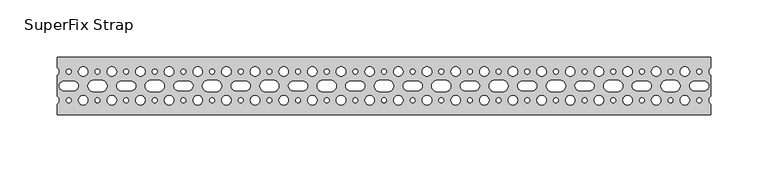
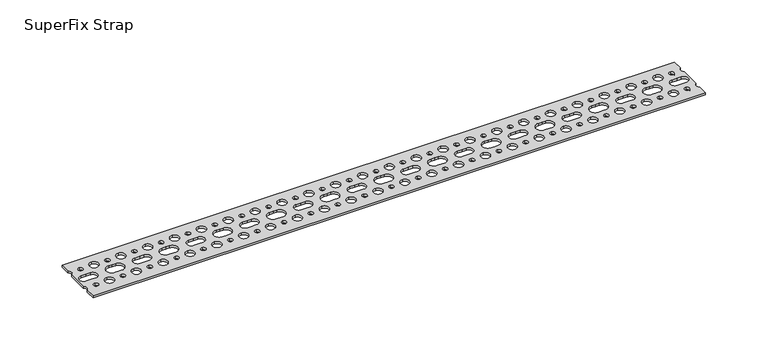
"""IFC4 building model written with IfcOpenShell, lengths in millimetres: valve geometry, Superfix Strap : SuperFix Strap."""

from ifc_helpers import new_model, si_unit, point, frame_2d, origin, origin_with_axes, place, context, project, spatial, polyline, circle_curve, trimmed, segment, composite_curve, outline, extrude, source, transform, mapped, element, save


def superfix_strap_2dfa1f6c(model_context):
    return source(origin(), model_context, "Body", "SweptSolid", [
        extrude(outline(composite_curve([segment(polyline([(285.0438563, -25.0), (-285.0438563, -25.0), (-285.0438563, -15.8451245)]), True, "CONTINUOUS"), segment(trimmed(circle_curve(frame_2d((-287.5, -12.5)), 4.15), [point((-285.0438563, -15.8451245))], [point((-285.0438563, -9.1548755))], True, "CARTESIAN"), True, "CONTINUOUS"), segment(polyline([(-285.0438563, -9.1548755), (-285.0438563, 9.1548755)]), True, "CONTINUOUS"), segment(trimmed(circle_curve(frame_2d((-287.5, 12.5)), 4.15), [point((-285.0438563, 9.1548755))], [point((-285.0438563, 15.8451245))], True, "CARTESIAN"), True, "CONTINUOUS"), segment(polyline([(-285.0438563, 15.8451245), (-285.0438563, 25.0), (285.0438563, 25.0), (285.0438563, 15.8451245)]), True, "CONTINUOUS"), segment(trimmed(circle_curve(frame_2d((287.5, 12.5)), 4.15), [point((285.0438563, 15.8451245))], [point((285.0438563, 9.1548755))], True, "CARTESIAN"), True, "CONTINUOUS"), segment(polyline([(285.0438563, 9.1548755), (285.0438563, -9.1548755)]), True, "CONTINUOUS"), segment(trimmed(circle_curve(frame_2d((287.5, -12.5)), 4.15), [point((285.0438563, -9.1548755))], [point((285.0438563, -15.8451245))], True, "CARTESIAN"), True, "CONTINUOUS"), segment(polyline([(285.0438563, -15.8451245), (285.0438563, -25.0)]), True, "CONTINUOUS")], self_intersect=False), holes=[composite_curve([segment(polyline([(25.0, 4.15), (20.75, 4.15)]), True, "CONTINUOUS"), segment(trimmed(circle_curve(frame_2d((20.75, 0.0)), 4.15), [point((20.75, 4.15))], [point((20.75, -4.15))], True, "CARTESIAN"), True, "CONTINUOUS"), segment(polyline([(20.75, -4.15), (25.0, -4.15), (29.25, -4.15)]), True, "CONTINUOUS"), segment(trimmed(circle_curve(frame_2d((29.25, 0.0)), 4.15), [point((29.25, -4.15))], [point((29.25, 4.15))], True, "CARTESIAN"), True, "CONTINUOUS"), segment(polyline([(29.25, 4.15), (25.0, 4.15)]), True, "CONTINUOUS")], self_intersect=False), composite_curve([segment(polyline([(0.0, 5.15), (-3.25, 5.15)]), True, "CONTINUOUS"), segment(trimmed(circle_curve(frame_2d((-3.25, 0.0)), 5.15), [point((-3.25, 5.15))], [point((-3.25, -5.15))], True, "CARTESIAN"), True, "CONTINUOUS"), segment(polyline([(-3.25, -5.15), (0.0, -5.15), (3.25, -5.15)]), True, "CONTINUOUS"), segment(trimmed(circle_curve(frame_2d((3.25, 0.0)), 5.15), [point((3.25, -5.15))], [point((3.25, 5.15))], True, "CARTESIAN"), True, "CONTINUOUS"), segment(polyline([(3.25, 5.15), (0.0, 5.15)]), True, "CONTINUOUS")], self_intersect=False), composite_curve([segment(trimmed(circle_curve(frame_2d((0.0, 12.5)), 2.15), [point((0.0, 14.65))], [point((0.0, 10.35))], True, "CARTESIAN"), True, "CONTINUOUS"), segment(trimmed(circle_curve(frame_2d((0.0, 12.5)), 2.15), [point((0.0, 10.35))], [point((0.0, 14.65))], True, "CARTESIAN"), True, "CONTINUOUS")], self_intersect=False), composite_curve([segment(trimmed(circle_curve(frame_2d((25.0, 12.5)), 2.15), [point((25.0, 14.65))], [point((25.0, 10.35))], True, "CARTESIAN"), True, "CONTINUOUS"), segment(trimmed(circle_curve(frame_2d((25.0, 12.5)), 2.15), [point((25.0, 10.35))], [point((25.0, 14.65))], True, "CARTESIAN"), True, "CONTINUOUS")], self_intersect=False), composite_curve([segment(trimmed(circle_curve(frame_2d((25.0, -12.5)), 2.15), [point((25.0, -10.35))], [point((25.0, -14.65))], True, "CARTESIAN"), True, "CONTINUOUS"), segment(trimmed(circle_curve(frame_2d((25.0, -12.5)), 2.15), [point((25.0, -14.65))], [point((25.0, -10.35))], True, "CARTESIAN"), True, "CONTINUOUS")], self_intersect=False), composite_curve([segment(trimmed(circle_curve(frame_2d((0.0, -12.5)), 2.15), [point((0.0, -10.35))], [point((0.0, -14.65))], True, "CARTESIAN"), True, "CONTINUOUS"), segment(trimmed(circle_curve(frame_2d((0.0, -12.5)), 2.15), [point((0.0, -14.65))], [point((0.0, -10.35))], True, "CARTESIAN"), True, "CONTINUOUS")], self_intersect=False), composite_curve([segment(trimmed(circle_curve(frame_2d((12.5, 12.5)), 4.15), [point((12.5, 16.65))], [point((12.5, 8.35))], True, "CARTESIAN"), True, "CONTINUOUS"), segment(trimmed(circle_curve(frame_2d((12.5, 12.5)), 4.15), [point((12.5, 8.35))], [point((12.5, 16.65))], True, "CARTESIAN"), True, "CONTINUOUS")], self_intersect=False), composite_curve([segment(trimmed(circle_curve(frame_2d((12.5, -12.5)), 4.15), [point((12.5, -8.35))], [point((12.5, -16.65))], True, "CARTESIAN"), True, "CONTINUOUS"), segment(trimmed(circle_curve(frame_2d((12.5, -12.5)), 4.15), [point((12.5, -16.65))], [point((12.5, -8.35))], True, "CARTESIAN"), True, "CONTINUOUS")], self_intersect=False), composite_curve([segment(trimmed(circle_curve(frame_2d((37.5, 12.5)), 4.15), [point((37.5, 16.65))], [point((37.5, 8.35))], True, "CARTESIAN"), True, "CONTINUOUS"), segment(trimmed(circle_curve(frame_2d((37.5, 12.5)), 4.15), [point((37.5, 8.35))], [point((37.5, 16.65))], True, "CARTESIAN"), True, "CONTINUOUS")], self_intersect=False), composite_curve([segment(trimmed(circle_curve(frame_2d((37.5, -12.5)), 4.15), [point((37.5, -8.35))], [point((37.5, -16.65))], True, "CARTESIAN"), True, "CONTINUOUS"), segment(trimmed(circle_curve(frame_2d((37.5, -12.5)), 4.15), [point((37.5, -16.65))], [point((37.5, -8.35))], True, "CARTESIAN"), True, "CONTINUOUS")], self_intersect=False), composite_curve([segment(trimmed(circle_curve(frame_2d((-20.75, 0.0)), 4.15), [point((-20.75, -4.15))], [point((-20.75, 4.15))], True, "CARTESIAN"), True, "CONTINUOUS"), segment(polyline([(-20.75, 4.15), (-25.0, 4.15), (-29.25, 4.15)]), True, "CONTINUOUS"), segment(trimmed(circle_curve(frame_2d((-29.25, 0.0)), 4.15), [point((-29.25, 4.15))], [point((-29.25, -4.15))], True, "CARTESIAN"), True, "CONTINUOUS"), segment(polyline([(-29.25, -4.15), (-25.0, -4.15), (-20.75, -4.15)]), True, "CONTINUOUS")], self_intersect=False), composite_curve([segment(trimmed(circle_curve(frame_2d((-25.0, 12.5)), 2.15), [point((-25.0, 14.65))], [point((-25.0, 10.35))], True, "CARTESIAN"), True, "CONTINUOUS"), segment(trimmed(circle_curve(frame_2d((-25.0, 12.5)), 2.15), [point((-25.0, 10.35))], [point((-25.0, 14.65))], True, "CARTESIAN"), True, "CONTINUOUS")], self_intersect=False), composite_curve([segment(trimmed(circle_curve(frame_2d((-25.0, -12.5)), 2.15), [point((-25.0, -10.35))], [point((-25.0, -14.65))], True, "CARTESIAN"), True, "CONTINUOUS"), segment(trimmed(circle_curve(frame_2d((-25.0, -12.5)), 2.15), [point((-25.0, -14.65))], [point((-25.0, -10.35))], True, "CARTESIAN"), True, "CONTINUOUS")], self_intersect=False), composite_curve([segment(trimmed(circle_curve(frame_2d((-12.5, 12.5)), 4.15), [point((-12.5, 16.65))], [point((-12.5, 8.35))], True, "CARTESIAN"), True, "CONTINUOUS"), segment(trimmed(circle_curve(frame_2d((-12.5, 12.5)), 4.15), [point((-12.5, 8.35))], [point((-12.5, 16.65))], True, "CARTESIAN"), True, "CONTINUOUS")], self_intersect=False), composite_curve([segment(trimmed(circle_curve(frame_2d((-12.5, -12.5)), 4.15), [point((-12.5, -8.35))], [point((-12.5, -16.65))], True, "CARTESIAN"), True, "CONTINUOUS"), segment(trimmed(circle_curve(frame_2d((-12.5, -12.5)), 4.15), [point((-12.5, -16.65))], [point((-12.5, -8.35))], True, "CARTESIAN"), True, "CONTINUOUS")], self_intersect=False), composite_curve([segment(polyline([(46.75, -5.15), (50.0, -5.15), (53.25, -5.15)]), True, "CONTINUOUS"), segment(trimmed(circle_curve(frame_2d((53.25, 0.0)), 5.15), [point((53.25, -5.15))], [point((53.25, 5.15))], True, "CARTESIAN"), True, "CONTINUOUS"), segment(polyline([(53.25, 5.15), (50.0, 5.15), (46.75, 5.15)]), True, "CONTINUOUS"), segment(trimmed(circle_curve(frame_2d((46.75, 0.0)), 5.15), [point((46.75, 5.15))], [point((46.75, -5.15))], True, "CARTESIAN"), True, "CONTINUOUS")], self_intersect=False), composite_curve([segment(trimmed(circle_curve(frame_2d((50.0, 12.5)), 2.15), [point((50.0, 14.65))], [point((50.0, 10.35))], True, "CARTESIAN"), True, "CONTINUOUS"), segment(trimmed(circle_curve(frame_2d((50.0, 12.5)), 2.15), [point((50.0, 10.35))], [point((50.0, 14.65))], True, "CARTESIAN"), True, "CONTINUOUS")], self_intersect=False), composite_curve([segment(trimmed(circle_curve(frame_2d((50.0, -12.5)), 2.15), [point((50.0, -10.35))], [point((50.0, -14.65))], True, "CARTESIAN"), True, "CONTINUOUS"), segment(trimmed(circle_curve(frame_2d((50.0, -12.5)), 2.15), [point((50.0, -14.65))], [point((50.0, -10.35))], True, "CARTESIAN"), True, "CONTINUOUS")], self_intersect=False), composite_curve([segment(trimmed(circle_curve(frame_2d((-37.5, 12.5)), 4.15), [point((-37.5, 16.65))], [point((-37.5, 8.35))], True, "CARTESIAN"), True, "CONTINUOUS"), segment(trimmed(circle_curve(frame_2d((-37.5, 12.5)), 4.15), [point((-37.5, 8.35))], [point((-37.5, 16.65))], True, "CARTESIAN"), True, "CONTINUOUS")], self_intersect=False), composite_curve([segment(trimmed(circle_curve(frame_2d((-37.5, -12.5)), 4.15), [point((-37.5, -8.35))], [point((-37.5, -16.65))], True, "CARTESIAN"), True, "CONTINUOUS"), segment(trimmed(circle_curve(frame_2d((-37.5, -12.5)), 4.15), [point((-37.5, -16.65))], [point((-37.5, -8.35))], True, "CARTESIAN"), True, "CONTINUOUS")], self_intersect=False), composite_curve([segment(polyline([(125.0, 4.15), (120.75, 4.15)]), True, "CONTINUOUS"), segment(trimmed(circle_curve(frame_2d((120.75, 0.0)), 4.15), [point((120.75, 4.15))], [point((120.75, -4.15))], True, "CARTESIAN"), True, "CONTINUOUS"), segment(polyline([(120.75, -4.15), (125.0, -4.15), (129.25, -4.15)]), True, "CONTINUOUS"), segment(trimmed(circle_curve(frame_2d((129.25, 0.0)), 4.15), [point((129.25, -4.15))], [point((129.25, 4.15))], True, "CARTESIAN"), True, "CONTINUOUS"), segment(polyline([(129.25, 4.15), (125.0, 4.15)]), True, "CONTINUOUS")], self_intersect=False), composite_curve([segment(polyline([(100.0, 5.15), (96.75, 5.15)]), True, "CONTINUOUS"), segment(trimmed(circle_curve(frame_2d((96.75, 0.0)), 5.15), [point((96.75, 5.15))], [point((96.75, -5.15))], True, "CARTESIAN"), True, "CONTINUOUS"), segment(polyline([(96.75, -5.15), (100.0, -5.15), (103.25, -5.15)]), True, "CONTINUOUS"), segment(trimmed(circle_curve(frame_2d((103.25, 0.0)), 5.15), [point((103.25, -5.15))], [point((103.25, 5.15))], True, "CARTESIAN"), True, "CONTINUOUS"), segment(polyline([(103.25, 5.15), (100.0, 5.15)]), True, "CONTINUOUS")], self_intersect=False), composite_curve([segment(trimmed(circle_curve(frame_2d((100.0, 12.5)), 2.15), [point((100.0, 14.65))], [point((100.0, 10.35))], True, "CARTESIAN"), True, "CONTINUOUS"), segment(trimmed(circle_curve(frame_2d((100.0, 12.5)), 2.15), [point((100.0, 10.35))], [point((100.0, 14.65))], True, "CARTESIAN"), True, "CONTINUOUS")], self_intersect=False), composite_curve([segment(trimmed(circle_curve(frame_2d((125.0, 12.5)), 2.15), [point((125.0, 14.65))], [point((125.0, 10.35))], True, "CARTESIAN"), True, "CONTINUOUS"), segment(trimmed(circle_curve(frame_2d((125.0, 12.5)), 2.15), [point((125.0, 10.35))], [point((125.0, 14.65))], True, "CARTESIAN"), True, "CONTINUOUS")], self_intersect=False), composite_curve([segment(trimmed(circle_curve(frame_2d((125.0, -12.5)), 2.15), [point((125.0, -10.35))], [point((125.0, -14.65))], True, "CARTESIAN"), True, "CONTINUOUS"), segment(trimmed(circle_curve(frame_2d((125.0, -12.5)), 2.15), [point((125.0, -14.65))], [point((125.0, -10.35))], True, "CARTESIAN"), True, "CONTINUOUS")], self_intersect=False), composite_curve([segment(trimmed(circle_curve(frame_2d((100.0, -12.5)), 2.15), [point((100.0, -10.35))], [point((100.0, -14.65))], True, "CARTESIAN"), True, "CONTINUOUS"), segment(trimmed(circle_curve(frame_2d((100.0, -12.5)), 2.15), [point((100.0, -14.65))], [point((100.0, -10.35))], True, "CARTESIAN"), True, "CONTINUOUS")], self_intersect=False), composite_curve([segment(trimmed(circle_curve(frame_2d((112.5, 12.5)), 4.15), [point((112.5, 16.65))], [point((112.5, 8.35))], True, "CARTESIAN"), True, "CONTINUOUS"), segment(trimmed(circle_curve(frame_2d((112.5, 12.5)), 4.15), [point((112.5, 8.35))], [point((112.5, 16.65))], True, "CARTESIAN"), True, "CONTINUOUS")], self_intersect=False), composite_curve([segment(trimmed(circle_curve(frame_2d((112.5, -12.5)), 4.15), [point((112.5, -8.35))], [point((112.5, -16.65))], True, "CARTESIAN"), True, "CONTINUOUS"), segment(trimmed(circle_curve(frame_2d((112.5, -12.5)), 4.15), [point((112.5, -16.65))], [point((112.5, -8.35))], True, "CARTESIAN"), True, "CONTINUOUS")], self_intersect=False), composite_curve([segment(trimmed(circle_curve(frame_2d((137.5, 12.5)), 4.15), [point((137.5, 16.65))], [point((137.5, 8.35))], True, "CARTESIAN"), True, "CONTINUOUS"), segment(trimmed(circle_curve(frame_2d((137.5, 12.5)), 4.15), [point((137.5, 8.35))], [point((137.5, 16.65))], True, "CARTESIAN"), True, "CONTINUOUS")], self_intersect=False), composite_curve([segment(trimmed(circle_curve(frame_2d((137.5, -12.5)), 4.15), [point((137.5, -8.35))], [point((137.5, -16.65))], True, "CARTESIAN"), True, "CONTINUOUS"), segment(trimmed(circle_curve(frame_2d((137.5, -12.5)), 4.15), [point((137.5, -16.65))], [point((137.5, -8.35))], True, "CARTESIAN"), True, "CONTINUOUS")], self_intersect=False), composite_curve([segment(trimmed(circle_curve(frame_2d((79.25, 0.0)), 4.15), [point((79.25, -4.15))], [point((79.25, 4.15))], True, "CARTESIAN"), True, "CONTINUOUS"), segment(polyline([(79.25, 4.15), (75.0, 4.15), (70.75, 4.15)]), True, "CONTINUOUS"), segment(trimmed(circle_curve(frame_2d((70.75, 0.0)), 4.15), [point((70.75, 4.15))], [point((70.75, -4.15))], True, "CARTESIAN"), True, "CONTINUOUS"), segment(polyline([(70.75, -4.15), (75.0, -4.15), (79.25, -4.15)]), True, "CONTINUOUS")], self_intersect=False), composite_curve([segment(trimmed(circle_curve(frame_2d((75.0, 12.5)), 2.15), [point((75.0, 14.65))], [point((75.0, 10.35))], True, "CARTESIAN"), True, "CONTINUOUS"), segment(trimmed(circle_curve(frame_2d((75.0, 12.5)), 2.15), [point((75.0, 10.35))], [point((75.0, 14.65))], True, "CARTESIAN"), True, "CONTINUOUS")], self_intersect=False), composite_curve([segment(trimmed(circle_curve(frame_2d((75.0, -12.5)), 2.15), [point((75.0, -10.35))], [point((75.0, -14.65))], True, "CARTESIAN"), True, "CONTINUOUS"), segment(trimmed(circle_curve(frame_2d((75.0, -12.5)), 2.15), [point((75.0, -14.65))], [point((75.0, -10.35))], True, "CARTESIAN"), True, "CONTINUOUS")], self_intersect=False), composite_curve([segment(trimmed(circle_curve(frame_2d((87.5, 12.5)), 4.15), [point((87.5, 16.65))], [point((87.5, 8.35))], True, "CARTESIAN"), True, "CONTINUOUS"), segment(trimmed(circle_curve(frame_2d((87.5, 12.5)), 4.15), [point((87.5, 8.35))], [point((87.5, 16.65))], True, "CARTESIAN"), True, "CONTINUOUS")], self_intersect=False), composite_curve([segment(trimmed(circle_curve(frame_2d((87.5, -12.5)), 4.15), [point((87.5, -8.35))], [point((87.5, -16.65))], True, "CARTESIAN"), True, "CONTINUOUS"), segment(trimmed(circle_curve(frame_2d((87.5, -12.5)), 4.15), [point((87.5, -16.65))], [point((87.5, -8.35))], True, "CARTESIAN"), True, "CONTINUOUS")], self_intersect=False), composite_curve([segment(polyline([(146.75, -5.15), (150.0, -5.15), (153.25, -5.15)]), True, "CONTINUOUS"), segment(trimmed(circle_curve(frame_2d((153.25, 0.0)), 5.15), [point((153.25, -5.15))], [point((153.25, 5.15))], True, "CARTESIAN"), True, "CONTINUOUS"), segment(polyline([(153.25, 5.15), (150.0, 5.15), (146.75, 5.15)]), True, "CONTINUOUS"), segment(trimmed(circle_curve(frame_2d((146.75, 0.0)), 5.15), [point((146.75, 5.15))], [point((146.75, -5.15))], True, "CARTESIAN"), True, "CONTINUOUS")], self_intersect=False), composite_curve([segment(trimmed(circle_curve(frame_2d((150.0, 12.5)), 2.15), [point((150.0, 14.65))], [point((150.0, 10.35))], True, "CARTESIAN"), True, "CONTINUOUS"), segment(trimmed(circle_curve(frame_2d((150.0, 12.5)), 2.15), [point((150.0, 10.35))], [point((150.0, 14.65))], True, "CARTESIAN"), True, "CONTINUOUS")], self_intersect=False), composite_curve([segment(trimmed(circle_curve(frame_2d((150.0, -12.5)), 2.15), [point((150.0, -10.35))], [point((150.0, -14.65))], True, "CARTESIAN"), True, "CONTINUOUS"), segment(trimmed(circle_curve(frame_2d((150.0, -12.5)), 2.15), [point((150.0, -14.65))], [point((150.0, -10.35))], True, "CARTESIAN"), True, "CONTINUOUS")], self_intersect=False), composite_curve([segment(trimmed(circle_curve(frame_2d((62.5, 12.5)), 4.15), [point((62.5, 16.65))], [point((62.5, 8.35))], True, "CARTESIAN"), True, "CONTINUOUS"), segment(trimmed(circle_curve(frame_2d((62.5, 12.5)), 4.15), [point((62.5, 8.35))], [point((62.5, 16.65))], True, "CARTESIAN"), True, "CONTINUOUS")], self_intersect=False), composite_curve([segment(trimmed(circle_curve(frame_2d((62.5, -12.5)), 4.15), [point((62.5, -8.35))], [point((62.5, -16.65))], True, "CARTESIAN"), True, "CONTINUOUS"), segment(trimmed(circle_curve(frame_2d((62.5, -12.5)), 4.15), [point((62.5, -16.65))], [point((62.5, -8.35))], True, "CARTESIAN"), True, "CONTINUOUS")], self_intersect=False), composite_curve([segment(polyline([(-75.0, 4.15), (-79.25, 4.15)]), True, "CONTINUOUS"), segment(trimmed(circle_curve(frame_2d((-79.25, 0.0)), 4.15), [point((-79.25, 4.15))], [point((-79.25, -4.15))], True, "CARTESIAN"), True, "CONTINUOUS"), segment(polyline([(-79.25, -4.15), (-75.0, -4.15), (-70.75, -4.15)]), True, "CONTINUOUS"), segment(trimmed(circle_curve(frame_2d((-70.75, 0.0)), 4.15), [point((-70.75, -4.15))], [point((-70.75, 4.15))], True, "CARTESIAN"), True, "CONTINUOUS"), segment(polyline([(-70.75, 4.15), (-75.0, 4.15)]), True, "CONTINUOUS")], self_intersect=False), composite_curve([segment(polyline([(-100.0, 5.15), (-103.25, 5.15)]), True, "CONTINUOUS"), segment(trimmed(circle_curve(frame_2d((-103.25, 0.0)), 5.15), [point((-103.25, 5.15))], [point((-103.25, -5.15))], True, "CARTESIAN"), True, "CONTINUOUS"), segment(polyline([(-103.25, -5.15), (-100.0, -5.15), (-96.75, -5.15)]), True, "CONTINUOUS"), segment(trimmed(circle_curve(frame_2d((-96.75, 0.0)), 5.15), [point((-96.75, -5.15))], [point((-96.75, 5.15))], True, "CARTESIAN"), True, "CONTINUOUS"), segment(polyline([(-96.75, 5.15), (-100.0, 5.15)]), True, "CONTINUOUS")], self_intersect=False), composite_curve([segment(trimmed(circle_curve(frame_2d((-100.0, 12.5)), 2.15), [point((-100.0, 14.65))], [point((-100.0, 10.35))], True, "CARTESIAN"), True, "CONTINUOUS"), segment(trimmed(circle_curve(frame_2d((-100.0, 12.5)), 2.15), [point((-100.0, 10.35))], [point((-100.0, 14.65))], True, "CARTESIAN"), True, "CONTINUOUS")], self_intersect=False), composite_curve([segment(trimmed(circle_curve(frame_2d((-75.0, 12.5)), 2.15), [point((-75.0, 14.65))], [point((-75.0, 10.35))], True, "CARTESIAN"), True, "CONTINUOUS"), segment(trimmed(circle_curve(frame_2d((-75.0, 12.5)), 2.15), [point((-75.0, 10.35))], [point((-75.0, 14.65))], True, "CARTESIAN"), True, "CONTINUOUS")], self_intersect=False), composite_curve([segment(trimmed(circle_curve(frame_2d((-75.0, -12.5)), 2.15), [point((-75.0, -10.35))], [point((-75.0, -14.65))], True, "CARTESIAN"), True, "CONTINUOUS"), segment(trimmed(circle_curve(frame_2d((-75.0, -12.5)), 2.15), [point((-75.0, -14.65))], [point((-75.0, -10.35))], True, "CARTESIAN"), True, "CONTINUOUS")], self_intersect=False), composite_curve([segment(trimmed(circle_curve(frame_2d((-100.0, -12.5)), 2.15), [point((-100.0, -10.35))], [point((-100.0, -14.65))], True, "CARTESIAN"), True, "CONTINUOUS"), segment(trimmed(circle_curve(frame_2d((-100.0, -12.5)), 2.15), [point((-100.0, -14.65))], [point((-100.0, -10.35))], True, "CARTESIAN"), True, "CONTINUOUS")], self_intersect=False), composite_curve([segment(trimmed(circle_curve(frame_2d((-87.5, 12.5)), 4.15), [point((-87.5, 16.65))], [point((-87.5, 8.35))], True, "CARTESIAN"), True, "CONTINUOUS"), segment(trimmed(circle_curve(frame_2d((-87.5, 12.5)), 4.15), [point((-87.5, 8.35))], [point((-87.5, 16.65))], True, "CARTESIAN"), True, "CONTINUOUS")], self_intersect=False), composite_curve([segment(trimmed(circle_curve(frame_2d((-87.5, -12.5)), 4.15), [point((-87.5, -8.35))], [point((-87.5, -16.65))], True, "CARTESIAN"), True, "CONTINUOUS"), segment(trimmed(circle_curve(frame_2d((-87.5, -12.5)), 4.15), [point((-87.5, -16.65))], [point((-87.5, -8.35))], True, "CARTESIAN"), True, "CONTINUOUS")], self_intersect=False), composite_curve([segment(trimmed(circle_curve(frame_2d((-62.5, 12.5)), 4.15), [point((-62.5, 16.65))], [point((-62.5, 8.35))], True, "CARTESIAN"), True, "CONTINUOUS"), segment(trimmed(circle_curve(frame_2d((-62.5, 12.5)), 4.15), [point((-62.5, 8.35))], [point((-62.5, 16.65))], True, "CARTESIAN"), True, "CONTINUOUS")], self_intersect=False), composite_curve([segment(trimmed(circle_curve(frame_2d((-62.5, -12.5)), 4.15), [point((-62.5, -8.35))], [point((-62.5, -16.65))], True, "CARTESIAN"), True, "CONTINUOUS"), segment(trimmed(circle_curve(frame_2d((-62.5, -12.5)), 4.15), [point((-62.5, -16.65))], [point((-62.5, -8.35))], True, "CARTESIAN"), True, "CONTINUOUS")], self_intersect=False), composite_curve([segment(trimmed(circle_curve(frame_2d((-120.75, 0.0)), 4.15), [point((-120.75, -4.15))], [point((-120.75, 4.15))], True, "CARTESIAN"), True, "CONTINUOUS"), segment(polyline([(-120.75, 4.15), (-125.0, 4.15), (-129.25, 4.15)]), True, "CONTINUOUS"), segment(trimmed(circle_curve(frame_2d((-129.25, 0.0)), 4.15), [point((-129.25, 4.15))], [point((-129.25, -4.15))], True, "CARTESIAN"), True, "CONTINUOUS"), segment(polyline([(-129.25, -4.15), (-125.0, -4.15), (-120.75, -4.15)]), True, "CONTINUOUS")], self_intersect=False), composite_curve([segment(trimmed(circle_curve(frame_2d((-125.0, 12.5)), 2.15), [point((-125.0, 14.65))], [point((-125.0, 10.35))], True, "CARTESIAN"), True, "CONTINUOUS"), segment(trimmed(circle_curve(frame_2d((-125.0, 12.5)), 2.15), [point((-125.0, 10.35))], [point((-125.0, 14.65))], True, "CARTESIAN"), True, "CONTINUOUS")], self_intersect=False), composite_curve([segment(trimmed(circle_curve(frame_2d((-125.0, -12.5)), 2.15), [point((-125.0, -10.35))], [point((-125.0, -14.65))], True, "CARTESIAN"), True, "CONTINUOUS"), segment(trimmed(circle_curve(frame_2d((-125.0, -12.5)), 2.15), [point((-125.0, -14.65))], [point((-125.0, -10.35))], True, "CARTESIAN"), True, "CONTINUOUS")], self_intersect=False), composite_curve([segment(trimmed(circle_curve(frame_2d((-112.5, 12.5)), 4.15), [point((-112.5, 16.65))], [point((-112.5, 8.35))], True, "CARTESIAN"), True, "CONTINUOUS"), segment(trimmed(circle_curve(frame_2d((-112.5, 12.5)), 4.15), [point((-112.5, 8.35))], [point((-112.5, 16.65))], True, "CARTESIAN"), True, "CONTINUOUS")], self_intersect=False), composite_curve([segment(trimmed(circle_curve(frame_2d((-112.5, -12.5)), 4.15), [point((-112.5, -8.35))], [point((-112.5, -16.65))], True, "CARTESIAN"), True, "CONTINUOUS"), segment(trimmed(circle_curve(frame_2d((-112.5, -12.5)), 4.15), [point((-112.5, -16.65))], [point((-112.5, -8.35))], True, "CARTESIAN"), True, "CONTINUOUS")], self_intersect=False), composite_curve([segment(polyline([(-53.25, -5.15), (-50.0, -5.15), (-46.75, -5.15)]), True, "CONTINUOUS"), segment(trimmed(circle_curve(frame_2d((-46.75, 0.0)), 5.15), [point((-46.75, -5.15))], [point((-46.75, 5.15))], True, "CARTESIAN"), True, "CONTINUOUS"), segment(polyline([(-46.75, 5.15), (-50.0, 5.15), (-53.25, 5.15)]), True, "CONTINUOUS"), segment(trimmed(circle_curve(frame_2d((-53.25, 0.0)), 5.15), [point((-53.25, 5.15))], [point((-53.25, -5.15))], True, "CARTESIAN"), True, "CONTINUOUS")], self_intersect=False), composite_curve([segment(trimmed(circle_curve(frame_2d((-50.0, 12.5)), 2.15), [point((-50.0, 14.65))], [point((-50.0, 10.35))], True, "CARTESIAN"), True, "CONTINUOUS"), segment(trimmed(circle_curve(frame_2d((-50.0, 12.5)), 2.15), [point((-50.0, 10.35))], [point((-50.0, 14.65))], True, "CARTESIAN"), True, "CONTINUOUS")], self_intersect=False), composite_curve([segment(trimmed(circle_curve(frame_2d((-50.0, -12.5)), 2.15), [point((-50.0, -10.35))], [point((-50.0, -14.65))], True, "CARTESIAN"), True, "CONTINUOUS"), segment(trimmed(circle_curve(frame_2d((-50.0, -12.5)), 2.15), [point((-50.0, -14.65))], [point((-50.0, -10.35))], True, "CARTESIAN"), True, "CONTINUOUS")], self_intersect=False), composite_curve([segment(trimmed(circle_curve(frame_2d((-137.5, 12.5)), 4.15), [point((-137.5, 16.65))], [point((-137.5, 8.35))], True, "CARTESIAN"), True, "CONTINUOUS"), segment(trimmed(circle_curve(frame_2d((-137.5, 12.5)), 4.15), [point((-137.5, 8.35))], [point((-137.5, 16.65))], True, "CARTESIAN"), True, "CONTINUOUS")], self_intersect=False), composite_curve([segment(trimmed(circle_curve(frame_2d((-137.5, -12.5)), 4.15), [point((-137.5, -8.35))], [point((-137.5, -16.65))], True, "CARTESIAN"), True, "CONTINUOUS"), segment(trimmed(circle_curve(frame_2d((-137.5, -12.5)), 4.15), [point((-137.5, -16.65))], [point((-137.5, -8.35))], True, "CARTESIAN"), True, "CONTINUOUS")], self_intersect=False), composite_curve([segment(trimmed(circle_curve(frame_2d((250.0, 12.5)), 2.15), [point((250.0, 14.65))], [point((250.0, 10.35))], True, "CARTESIAN"), True, "CONTINUOUS"), segment(trimmed(circle_curve(frame_2d((250.0, 12.5)), 2.15), [point((250.0, 10.35))], [point((250.0, 14.65))], True, "CARTESIAN"), True, "CONTINUOUS")], self_intersect=False), composite_curve([segment(polyline([(246.75, -5.15), (250.0, -5.15), (253.25, -5.15)]), True, "CONTINUOUS"), segment(trimmed(circle_curve(frame_2d((253.25, 0.0)), 5.15), [point((253.25, -5.15))], [point((253.25, 5.15))], True, "CARTESIAN"), True, "CONTINUOUS"), segment(polyline([(253.25, 5.15), (250.0, 5.15), (246.75, 5.15)]), True, "CONTINUOUS"), segment(trimmed(circle_curve(frame_2d((246.75, 0.0)), 5.15), [point((246.75, 5.15))], [point((246.75, -5.15))], True, "CARTESIAN"), True, "CONTINUOUS")], self_intersect=False), composite_curve([segment(trimmed(circle_curve(frame_2d((250.0, -12.5)), 2.15), [point((250.0, -10.35))], [point((250.0, -14.65))], True, "CARTESIAN"), True, "CONTINUOUS"), segment(trimmed(circle_curve(frame_2d((250.0, -12.5)), 2.15), [point((250.0, -14.65))], [point((250.0, -10.35))], True, "CARTESIAN"), True, "CONTINUOUS")], self_intersect=False), composite_curve([segment(polyline([(225.0, 4.15), (220.75, 4.15)]), True, "CONTINUOUS"), segment(trimmed(circle_curve(frame_2d((220.75, 0.0)), 4.15), [point((220.75, 4.15))], [point((220.75, -4.15))], True, "CARTESIAN"), True, "CONTINUOUS"), segment(polyline([(220.75, -4.15), (225.0, -4.15), (229.25, -4.15)]), True, "CONTINUOUS"), segment(trimmed(circle_curve(frame_2d((229.25, 0.0)), 4.15), [point((229.25, -4.15))], [point((229.25, 4.15))], True, "CARTESIAN"), True, "CONTINUOUS"), segment(polyline([(229.25, 4.15), (225.0, 4.15)]), True, "CONTINUOUS")], self_intersect=False), composite_curve([segment(polyline([(200.0, 5.15), (196.75, 5.15)]), True, "CONTINUOUS"), segment(trimmed(circle_curve(frame_2d((196.75, 0.0)), 5.15), [point((196.75, 5.15))], [point((196.75, -5.15))], True, "CARTESIAN"), True, "CONTINUOUS"), segment(polyline([(196.75, -5.15), (200.0, -5.15), (203.25, -5.15)]), True, "CONTINUOUS"), segment(trimmed(circle_curve(frame_2d((203.25, 0.0)), 5.15), [point((203.25, -5.15))], [point((203.25, 5.15))], True, "CARTESIAN"), True, "CONTINUOUS"), segment(polyline([(203.25, 5.15), (200.0, 5.15)]), True, "CONTINUOUS")], self_intersect=False), composite_curve([segment(trimmed(circle_curve(frame_2d((200.0, 12.5)), 2.15), [point((200.0, 14.65))], [point((200.0, 10.35))], True, "CARTESIAN"), True, "CONTINUOUS"), segment(trimmed(circle_curve(frame_2d((200.0, 12.5)), 2.15), [point((200.0, 10.35))], [point((200.0, 14.65))], True, "CARTESIAN"), True, "CONTINUOUS")], self_intersect=False), composite_curve([segment(trimmed(circle_curve(frame_2d((225.0, 12.5)), 2.15), [point((225.0, 14.65))], [point((225.0, 10.35))], True, "CARTESIAN"), True, "CONTINUOUS"), segment(trimmed(circle_curve(frame_2d((225.0, 12.5)), 2.15), [point((225.0, 10.35))], [point((225.0, 14.65))], True, "CARTESIAN"), True, "CONTINUOUS")], self_intersect=False), composite_curve([segment(trimmed(circle_curve(frame_2d((225.0, -12.5)), 2.15), [point((225.0, -10.35))], [point((225.0, -14.65))], True, "CARTESIAN"), True, "CONTINUOUS"), segment(trimmed(circle_curve(frame_2d((225.0, -12.5)), 2.15), [point((225.0, -14.65))], [point((225.0, -10.35))], True, "CARTESIAN"), True, "CONTINUOUS")], self_intersect=False), composite_curve([segment(trimmed(circle_curve(frame_2d((200.0, -12.5)), 2.15), [point((200.0, -10.35))], [point((200.0, -14.65))], True, "CARTESIAN"), True, "CONTINUOUS"), segment(trimmed(circle_curve(frame_2d((200.0, -12.5)), 2.15), [point((200.0, -14.65))], [point((200.0, -10.35))], True, "CARTESIAN"), True, "CONTINUOUS")], self_intersect=False), composite_curve([segment(trimmed(circle_curve(frame_2d((212.5, 12.5)), 4.15), [point((212.5, 16.65))], [point((212.5, 8.35))], True, "CARTESIAN"), True, "CONTINUOUS"), segment(trimmed(circle_curve(frame_2d((212.5, 12.5)), 4.15), [point((212.5, 8.35))], [point((212.5, 16.65))], True, "CARTESIAN"), True, "CONTINUOUS")], self_intersect=False), composite_curve([segment(trimmed(circle_curve(frame_2d((212.5, -12.5)), 4.15), [point((212.5, -8.35))], [point((212.5, -16.65))], True, "CARTESIAN"), True, "CONTINUOUS"), segment(trimmed(circle_curve(frame_2d((212.5, -12.5)), 4.15), [point((212.5, -16.65))], [point((212.5, -8.35))], True, "CARTESIAN"), True, "CONTINUOUS")], self_intersect=False), composite_curve([segment(trimmed(circle_curve(frame_2d((237.5, 12.5)), 4.15), [point((237.5, 16.65))], [point((237.5, 8.35))], True, "CARTESIAN"), True, "CONTINUOUS"), segment(trimmed(circle_curve(frame_2d((237.5, 12.5)), 4.15), [point((237.5, 8.35))], [point((237.5, 16.65))], True, "CARTESIAN"), True, "CONTINUOUS")], self_intersect=False), composite_curve([segment(trimmed(circle_curve(frame_2d((237.5, -12.5)), 4.15), [point((237.5, -8.35))], [point((237.5, -16.65))], True, "CARTESIAN"), True, "CONTINUOUS"), segment(trimmed(circle_curve(frame_2d((237.5, -12.5)), 4.15), [point((237.5, -16.65))], [point((237.5, -8.35))], True, "CARTESIAN"), True, "CONTINUOUS")], self_intersect=False), composite_curve([segment(trimmed(circle_curve(frame_2d((179.25, 0.0)), 4.15), [point((179.25, -4.15))], [point((179.25, 4.15))], True, "CARTESIAN"), True, "CONTINUOUS"), segment(polyline([(179.25, 4.15), (175.0, 4.15), (170.75, 4.15)]), True, "CONTINUOUS"), segment(trimmed(circle_curve(frame_2d((170.75, 0.0)), 4.15), [point((170.75, 4.15))], [point((170.75, -4.15))], True, "CARTESIAN"), True, "CONTINUOUS"), segment(polyline([(170.75, -4.15), (175.0, -4.15), (179.25, -4.15)]), True, "CONTINUOUS")], self_intersect=False), composite_curve([segment(trimmed(circle_curve(frame_2d((175.0, 12.5)), 2.15), [point((175.0, 14.65))], [point((175.0, 10.35))], True, "CARTESIAN"), True, "CONTINUOUS"), segment(trimmed(circle_curve(frame_2d((175.0, 12.5)), 2.15), [point((175.0, 10.35))], [point((175.0, 14.65))], True, "CARTESIAN"), True, "CONTINUOUS")], self_intersect=False), composite_curve([segment(trimmed(circle_curve(frame_2d((175.0, -12.5)), 2.15), [point((175.0, -10.35))], [point((175.0, -14.65))], True, "CARTESIAN"), True, "CONTINUOUS"), segment(trimmed(circle_curve(frame_2d((175.0, -12.5)), 2.15), [point((175.0, -14.65))], [point((175.0, -10.35))], True, "CARTESIAN"), True, "CONTINUOUS")], self_intersect=False), composite_curve([segment(trimmed(circle_curve(frame_2d((187.5, 12.5)), 4.15), [point((187.5, 16.65))], [point((187.5, 8.35))], True, "CARTESIAN"), True, "CONTINUOUS"), segment(trimmed(circle_curve(frame_2d((187.5, 12.5)), 4.15), [point((187.5, 8.35))], [point((187.5, 16.65))], True, "CARTESIAN"), True, "CONTINUOUS")], self_intersect=False), composite_curve([segment(trimmed(circle_curve(frame_2d((187.5, -12.5)), 4.15), [point((187.5, -8.35))], [point((187.5, -16.65))], True, "CARTESIAN"), True, "CONTINUOUS"), segment(trimmed(circle_curve(frame_2d((187.5, -12.5)), 4.15), [point((187.5, -16.65))], [point((187.5, -8.35))], True, "CARTESIAN"), True, "CONTINUOUS")], self_intersect=False), composite_curve([segment(trimmed(circle_curve(frame_2d((162.5, 12.5)), 4.15), [point((162.5, 16.65))], [point((162.5, 8.35))], True, "CARTESIAN"), True, "CONTINUOUS"), segment(trimmed(circle_curve(frame_2d((162.5, 12.5)), 4.15), [point((162.5, 8.35))], [point((162.5, 16.65))], True, "CARTESIAN"), True, "CONTINUOUS")], self_intersect=False), composite_curve([segment(trimmed(circle_curve(frame_2d((162.5, -12.5)), 4.15), [point((162.5, -8.35))], [point((162.5, -16.65))], True, "CARTESIAN"), True, "CONTINUOUS"), segment(trimmed(circle_curve(frame_2d((162.5, -12.5)), 4.15), [point((162.5, -16.65))], [point((162.5, -8.35))], True, "CARTESIAN"), True, "CONTINUOUS")], self_intersect=False), composite_curve([segment(polyline([(-175.0, 4.15), (-179.25, 4.15)]), True, "CONTINUOUS"), segment(trimmed(circle_curve(frame_2d((-179.25, 0.0)), 4.15), [point((-179.25, 4.15))], [point((-179.25, -4.15))], True, "CARTESIAN"), True, "CONTINUOUS"), segment(polyline([(-179.25, -4.15), (-175.0, -4.15), (-170.75, -4.15)]), True, "CONTINUOUS"), segment(trimmed(circle_curve(frame_2d((-170.75, 0.0)), 4.15), [point((-170.75, -4.15))], [point((-170.75, 4.15))], True, "CARTESIAN"), True, "CONTINUOUS"), segment(polyline([(-170.75, 4.15), (-175.0, 4.15)]), True, "CONTINUOUS")], self_intersect=False), composite_curve([segment(polyline([(-200.0, 5.15), (-203.25, 5.15)]), True, "CONTINUOUS"), segment(trimmed(circle_curve(frame_2d((-203.25, 0.0)), 5.15), [point((-203.25, 5.15))], [point((-203.25, -5.15))], True, "CARTESIAN"), True, "CONTINUOUS"), segment(polyline([(-203.25, -5.15), (-200.0, -5.15), (-196.75, -5.15)]), True, "CONTINUOUS"), segment(trimmed(circle_curve(frame_2d((-196.75, 0.0)), 5.15), [point((-196.75, -5.15))], [point((-196.75, 5.15))], True, "CARTESIAN"), True, "CONTINUOUS"), segment(polyline([(-196.75, 5.15), (-200.0, 5.15)]), True, "CONTINUOUS")], self_intersect=False), composite_curve([segment(trimmed(circle_curve(frame_2d((-200.0, 12.5)), 2.15), [point((-200.0, 14.65))], [point((-200.0, 10.35))], True, "CARTESIAN"), True, "CONTINUOUS"), segment(trimmed(circle_curve(frame_2d((-200.0, 12.5)), 2.15), [point((-200.0, 10.35))], [point((-200.0, 14.65))], True, "CARTESIAN"), True, "CONTINUOUS")], self_intersect=False), composite_curve([segment(trimmed(circle_curve(frame_2d((-175.0, 12.5)), 2.15), [point((-175.0, 14.65))], [point((-175.0, 10.35))], True, "CARTESIAN"), True, "CONTINUOUS"), segment(trimmed(circle_curve(frame_2d((-175.0, 12.5)), 2.15), [point((-175.0, 10.35))], [point((-175.0, 14.65))], True, "CARTESIAN"), True, "CONTINUOUS")], self_intersect=False), composite_curve([segment(trimmed(circle_curve(frame_2d((-175.0, -12.5)), 2.15), [point((-175.0, -10.35))], [point((-175.0, -14.65))], True, "CARTESIAN"), True, "CONTINUOUS"), segment(trimmed(circle_curve(frame_2d((-175.0, -12.5)), 2.15), [point((-175.0, -14.65))], [point((-175.0, -10.35))], True, "CARTESIAN"), True, "CONTINUOUS")], self_intersect=False), composite_curve([segment(trimmed(circle_curve(frame_2d((-200.0, -12.5)), 2.15), [point((-200.0, -10.35))], [point((-200.0, -14.65))], True, "CARTESIAN"), True, "CONTINUOUS"), segment(trimmed(circle_curve(frame_2d((-200.0, -12.5)), 2.15), [point((-200.0, -14.65))], [point((-200.0, -10.35))], True, "CARTESIAN"), True, "CONTINUOUS")], self_intersect=False), composite_curve([segment(trimmed(circle_curve(frame_2d((-187.5, 12.5)), 4.15), [point((-187.5, 16.65))], [point((-187.5, 8.35))], True, "CARTESIAN"), True, "CONTINUOUS"), segment(trimmed(circle_curve(frame_2d((-187.5, 12.5)), 4.15), [point((-187.5, 8.35))], [point((-187.5, 16.65))], True, "CARTESIAN"), True, "CONTINUOUS")], self_intersect=False), composite_curve([segment(trimmed(circle_curve(frame_2d((-187.5, -12.5)), 4.15), [point((-187.5, -8.35))], [point((-187.5, -16.65))], True, "CARTESIAN"), True, "CONTINUOUS"), segment(trimmed(circle_curve(frame_2d((-187.5, -12.5)), 4.15), [point((-187.5, -16.65))], [point((-187.5, -8.35))], True, "CARTESIAN"), True, "CONTINUOUS")], self_intersect=False), composite_curve([segment(trimmed(circle_curve(frame_2d((-162.5, 12.5)), 4.15), [point((-162.5, 16.65))], [point((-162.5, 8.35))], True, "CARTESIAN"), True, "CONTINUOUS"), segment(trimmed(circle_curve(frame_2d((-162.5, 12.5)), 4.15), [point((-162.5, 8.35))], [point((-162.5, 16.65))], True, "CARTESIAN"), True, "CONTINUOUS")], self_intersect=False), composite_curve([segment(trimmed(circle_curve(frame_2d((-162.5, -12.5)), 4.15), [point((-162.5, -8.35))], [point((-162.5, -16.65))], True, "CARTESIAN"), True, "CONTINUOUS"), segment(trimmed(circle_curve(frame_2d((-162.5, -12.5)), 4.15), [point((-162.5, -16.65))], [point((-162.5, -8.35))], True, "CARTESIAN"), True, "CONTINUOUS")], self_intersect=False), composite_curve([segment(trimmed(circle_curve(frame_2d((-220.75, 0.0)), 4.15), [point((-220.75, -4.15))], [point((-220.75, 4.15))], True, "CARTESIAN"), True, "CONTINUOUS"), segment(polyline([(-220.75, 4.15), (-225.0, 4.15), (-229.25, 4.15)]), True, "CONTINUOUS"), segment(trimmed(circle_curve(frame_2d((-229.25, 0.0)), 4.15), [point((-229.25, 4.15))], [point((-229.25, -4.15))], True, "CARTESIAN"), True, "CONTINUOUS"), segment(polyline([(-229.25, -4.15), (-225.0, -4.15), (-220.75, -4.15)]), True, "CONTINUOUS")], self_intersect=False), composite_curve([segment(trimmed(circle_curve(frame_2d((-225.0, 12.5)), 2.15), [point((-225.0, 14.65))], [point((-225.0, 10.35))], True, "CARTESIAN"), True, "CONTINUOUS"), segment(trimmed(circle_curve(frame_2d((-225.0, 12.5)), 2.15), [point((-225.0, 10.35))], [point((-225.0, 14.65))], True, "CARTESIAN"), True, "CONTINUOUS")], self_intersect=False), composite_curve([segment(trimmed(circle_curve(frame_2d((-225.0, -12.5)), 2.15), [point((-225.0, -10.35))], [point((-225.0, -14.65))], True, "CARTESIAN"), True, "CONTINUOUS"), segment(trimmed(circle_curve(frame_2d((-225.0, -12.5)), 2.15), [point((-225.0, -14.65))], [point((-225.0, -10.35))], True, "CARTESIAN"), True, "CONTINUOUS")], self_intersect=False), composite_curve([segment(trimmed(circle_curve(frame_2d((-212.5, 12.5)), 4.15), [point((-212.5, 16.65))], [point((-212.5, 8.35))], True, "CARTESIAN"), True, "CONTINUOUS"), segment(trimmed(circle_curve(frame_2d((-212.5, 12.5)), 4.15), [point((-212.5, 8.35))], [point((-212.5, 16.65))], True, "CARTESIAN"), True, "CONTINUOUS")], self_intersect=False), composite_curve([segment(trimmed(circle_curve(frame_2d((-212.5, -12.5)), 4.15), [point((-212.5, -8.35))], [point((-212.5, -16.65))], True, "CARTESIAN"), True, "CONTINUOUS"), segment(trimmed(circle_curve(frame_2d((-212.5, -12.5)), 4.15), [point((-212.5, -16.65))], [point((-212.5, -8.35))], True, "CARTESIAN"), True, "CONTINUOUS")], self_intersect=False), composite_curve([segment(polyline([(-153.25, -5.15), (-150.0, -5.15), (-146.75, -5.15)]), True, "CONTINUOUS"), segment(trimmed(circle_curve(frame_2d((-146.75, 0.0)), 5.15), [point((-146.75, -5.15))], [point((-146.75, 5.15))], True, "CARTESIAN"), True, "CONTINUOUS"), segment(polyline([(-146.75, 5.15), (-150.0, 5.15), (-153.25, 5.15)]), True, "CONTINUOUS"), segment(trimmed(circle_curve(frame_2d((-153.25, 0.0)), 5.15), [point((-153.25, 5.15))], [point((-153.25, -5.15))], True, "CARTESIAN"), True, "CONTINUOUS")], self_intersect=False), composite_curve([segment(trimmed(circle_curve(frame_2d((-150.0, 12.5)), 2.15), [point((-150.0, 14.65))], [point((-150.0, 10.35))], True, "CARTESIAN"), True, "CONTINUOUS"), segment(trimmed(circle_curve(frame_2d((-150.0, 12.5)), 2.15), [point((-150.0, 10.35))], [point((-150.0, 14.65))], True, "CARTESIAN"), True, "CONTINUOUS")], self_intersect=False), composite_curve([segment(trimmed(circle_curve(frame_2d((-150.0, -12.5)), 2.15), [point((-150.0, -10.35))], [point((-150.0, -14.65))], True, "CARTESIAN"), True, "CONTINUOUS"), segment(trimmed(circle_curve(frame_2d((-150.0, -12.5)), 2.15), [point((-150.0, -14.65))], [point((-150.0, -10.35))], True, "CARTESIAN"), True, "CONTINUOUS")], self_intersect=False), composite_curve([segment(trimmed(circle_curve(frame_2d((-237.5, 12.5)), 4.15), [point((-237.5, 16.65))], [point((-237.5, 8.35))], True, "CARTESIAN"), True, "CONTINUOUS"), segment(trimmed(circle_curve(frame_2d((-237.5, 12.5)), 4.15), [point((-237.5, 8.35))], [point((-237.5, 16.65))], True, "CARTESIAN"), True, "CONTINUOUS")], self_intersect=False), composite_curve([segment(trimmed(circle_curve(frame_2d((-237.5, -12.5)), 4.15), [point((-237.5, -8.35))], [point((-237.5, -16.65))], True, "CARTESIAN"), True, "CONTINUOUS"), segment(trimmed(circle_curve(frame_2d((-237.5, -12.5)), 4.15), [point((-237.5, -16.65))], [point((-237.5, -8.35))], True, "CARTESIAN"), True, "CONTINUOUS")], self_intersect=False), composite_curve([segment(trimmed(circle_curve(frame_2d((279.25, 0.0)), 4.15), [point((279.25, -4.15))], [point((279.25, 4.15))], True, "CARTESIAN"), True, "CONTINUOUS"), segment(polyline([(279.25, 4.15), (275.0, 4.15), (270.75, 4.15)]), True, "CONTINUOUS"), segment(trimmed(circle_curve(frame_2d((270.75, 0.0)), 4.15), [point((270.75, 4.15))], [point((270.75, -4.15))], True, "CARTESIAN"), True, "CONTINUOUS"), segment(polyline([(270.75, -4.15), (275.0, -4.15), (279.25, -4.15)]), True, "CONTINUOUS")], self_intersect=False), composite_curve([segment(trimmed(circle_curve(frame_2d((275.0, 12.5)), 2.15), [point((275.0, 14.65))], [point((275.0, 10.35))], True, "CARTESIAN"), True, "CONTINUOUS"), segment(trimmed(circle_curve(frame_2d((275.0, 12.5)), 2.15), [point((275.0, 10.35))], [point((275.0, 14.65))], True, "CARTESIAN"), True, "CONTINUOUS")], self_intersect=False), composite_curve([segment(trimmed(circle_curve(frame_2d((275.0, -12.5)), 2.15), [point((275.0, -10.35))], [point((275.0, -14.65))], True, "CARTESIAN"), True, "CONTINUOUS"), segment(trimmed(circle_curve(frame_2d((275.0, -12.5)), 2.15), [point((275.0, -14.65))], [point((275.0, -10.35))], True, "CARTESIAN"), True, "CONTINUOUS")], self_intersect=False), composite_curve([segment(trimmed(circle_curve(frame_2d((262.5, 12.5)), 4.15), [point((262.5, 16.65))], [point((262.5, 8.35))], True, "CARTESIAN"), True, "CONTINUOUS"), segment(trimmed(circle_curve(frame_2d((262.5, 12.5)), 4.15), [point((262.5, 8.35))], [point((262.5, 16.65))], True, "CARTESIAN"), True, "CONTINUOUS")], self_intersect=False), composite_curve([segment(trimmed(circle_curve(frame_2d((262.5, -12.5)), 4.15), [point((262.5, -8.35))], [point((262.5, -16.65))], True, "CARTESIAN"), True, "CONTINUOUS"), segment(trimmed(circle_curve(frame_2d((262.5, -12.5)), 4.15), [point((262.5, -16.65))], [point((262.5, -8.35))], True, "CARTESIAN"), True, "CONTINUOUS")], self_intersect=False), composite_curve([segment(polyline([(-275.0, 4.15), (-279.25, 4.15)]), True, "CONTINUOUS"), segment(trimmed(circle_curve(frame_2d((-279.25, 0.0)), 4.15), [point((-279.25, 4.15))], [point((-279.25, -4.15))], True, "CARTESIAN"), True, "CONTINUOUS"), segment(polyline([(-279.25, -4.15), (-275.0, -4.15), (-270.75, -4.15)]), True, "CONTINUOUS"), segment(trimmed(circle_curve(frame_2d((-270.75, 0.0)), 4.15), [point((-270.75, -4.15))], [point((-270.75, 4.15))], True, "CARTESIAN"), True, "CONTINUOUS"), segment(polyline([(-270.75, 4.15), (-275.0, 4.15)]), True, "CONTINUOUS")], self_intersect=False), composite_curve([segment(trimmed(circle_curve(frame_2d((-275.0, 12.5)), 2.15), [point((-275.0, 14.65))], [point((-275.0, 10.35))], True, "CARTESIAN"), True, "CONTINUOUS"), segment(trimmed(circle_curve(frame_2d((-275.0, 12.5)), 2.15), [point((-275.0, 10.35))], [point((-275.0, 14.65))], True, "CARTESIAN"), True, "CONTINUOUS")], self_intersect=False), composite_curve([segment(trimmed(circle_curve(frame_2d((-275.0, -12.5)), 2.15), [point((-275.0, -10.35))], [point((-275.0, -14.65))], True, "CARTESIAN"), True, "CONTINUOUS"), segment(trimmed(circle_curve(frame_2d((-275.0, -12.5)), 2.15), [point((-275.0, -14.65))], [point((-275.0, -10.35))], True, "CARTESIAN"), True, "CONTINUOUS")], self_intersect=False), composite_curve([segment(trimmed(circle_curve(frame_2d((-262.5, 12.5)), 4.15), [point((-262.5, 16.65))], [point((-262.5, 8.35))], True, "CARTESIAN"), True, "CONTINUOUS"), segment(trimmed(circle_curve(frame_2d((-262.5, 12.5)), 4.15), [point((-262.5, 8.35))], [point((-262.5, 16.65))], True, "CARTESIAN"), True, "CONTINUOUS")], self_intersect=False), composite_curve([segment(trimmed(circle_curve(frame_2d((-262.5, -12.5)), 4.15), [point((-262.5, -8.35))], [point((-262.5, -16.65))], True, "CARTESIAN"), True, "CONTINUOUS"), segment(trimmed(circle_curve(frame_2d((-262.5, -12.5)), 4.15), [point((-262.5, -16.65))], [point((-262.5, -8.35))], True, "CARTESIAN"), True, "CONTINUOUS")], self_intersect=False), composite_curve([segment(polyline([(-253.25, -5.15), (-250.0, -5.15), (-246.75, -5.15)]), True, "CONTINUOUS"), segment(trimmed(circle_curve(frame_2d((-246.75, 0.0)), 5.15), [point((-246.75, -5.15))], [point((-246.75, 5.15))], True, "CARTESIAN"), True, "CONTINUOUS"), segment(polyline([(-246.75, 5.15), (-250.0, 5.15), (-253.25, 5.15)]), True, "CONTINUOUS"), segment(trimmed(circle_curve(frame_2d((-253.25, 0.0)), 5.15), [point((-253.25, 5.15))], [point((-253.25, -5.15))], True, "CARTESIAN"), True, "CONTINUOUS")], self_intersect=False), composite_curve([segment(trimmed(circle_curve(frame_2d((-250.0, 12.5)), 2.15), [point((-250.0, 14.65))], [point((-250.0, 10.35))], True, "CARTESIAN"), True, "CONTINUOUS"), segment(trimmed(circle_curve(frame_2d((-250.0, 12.5)), 2.15), [point((-250.0, 10.35))], [point((-250.0, 14.65))], True, "CARTESIAN"), True, "CONTINUOUS")], self_intersect=False), composite_curve([segment(trimmed(circle_curve(frame_2d((-250.0, -12.5)), 2.15), [point((-250.0, -10.35))], [point((-250.0, -14.65))], True, "CARTESIAN"), True, "CONTINUOUS"), segment(trimmed(circle_curve(frame_2d((-250.0, -12.5)), 2.15), [point((-250.0, -14.65))], [point((-250.0, -10.35))], True, "CARTESIAN"), True, "CONTINUOUS")], self_intersect=False)]), origin_with_axes(), (0.0, 0.0, 1.0), 2.0),
    ])


if __name__ == "__main__":
    model = new_model("IFC4")
    model_context = context("Model", 3, world=origin())
    ifc_project = project(units=[si_unit("LENGTHUNIT", "METRE", prefix="MILLI")], contexts=[model_context])
    site = spatial("IfcSite", under=ifc_project)
    building = spatial("IfcBuilding", under=site)
    placement = place(None, origin())
    superfix_strap_shape = superfix_strap_2dfa1f6c(model_context)
    element("IfcValve", 1, ObjectType="Superfix Strap : SuperFix Strap", at=placement, inside=building, context=model_context, shape_type="MappedRepresentation", body=[
        mapped(superfix_strap_shape, transform((0.0, 0.0, 0.0), x_axis=(1.0, 0.0, 0.0), y_axis=(0.0, 1.0, 0.0), z_axis=(0.0, 0.0, 1.0))),
    ])
    save(model, "model.ifc")
